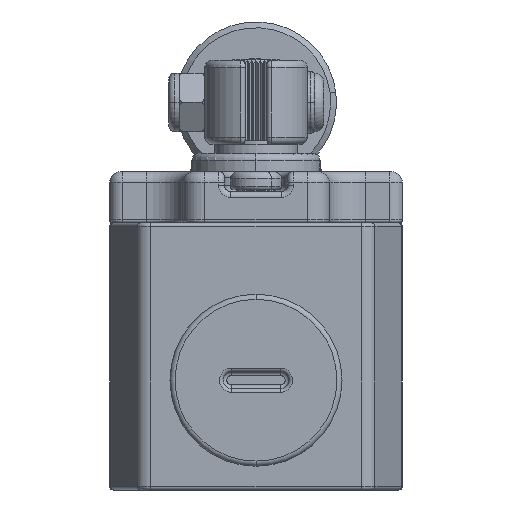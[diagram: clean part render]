
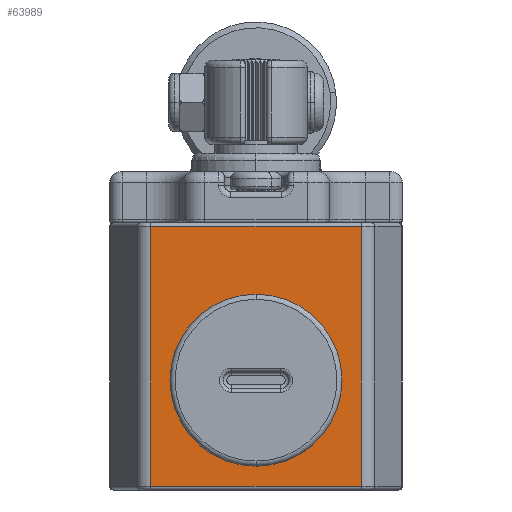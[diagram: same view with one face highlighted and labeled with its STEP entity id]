
A CAD part, front view. The second image highlights one B-rep face of the part: STEP entity #63989.
In plain terms, the highlighted planar face has unit normal (0, -1, 0).
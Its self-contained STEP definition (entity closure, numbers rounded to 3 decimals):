
#1341 = FACE_OUTER_BOUND ( 'NONE', #117278, .T. ) ;
#4713 = DIRECTION ( 'NONE',  ( 0., 0., 1. ) ) ;
#4829 = AXIS2_PLACEMENT_3D ( 'NONE', #84052, #19546, #101266 ) ;
#10828 = DIRECTION ( 'NONE',  ( 0., 0., -1. ) ) ;
#11184 = CARTESIAN_POINT ( 'NONE',  ( 88.342, 122.243, 244.545 ) ) ;
#12561 = FACE_BOUND ( 'NONE', #115080, .T. ) ;
#19546 = DIRECTION ( 'NONE',  ( 0., 1., 0. ) ) ;
#21885 = CARTESIAN_POINT ( 'NONE',  ( 117.144, 122.243, 244.545 ) ) ;
#22241 = VERTEX_POINT ( 'NONE', #11184 ) ;
#22618 = DIRECTION ( 'NONE',  ( 1., 0., 0. ) ) ;
#23898 = EDGE_CURVE ( 'NONE', #60030, #42844, #104258, .T. ) ;
#27044 = AXIS2_PLACEMENT_3D ( 'NONE', #30358, #46957, #10828 ) ;
#27972 = VERTEX_POINT ( 'NONE', #95428 ) ;
#28960 = EDGE_CURVE ( 'NONE', #49708, #60030, #67592, .T. ) ;
#30358 = CARTESIAN_POINT ( 'NONE',  ( 82.743, 122.243, 245.045 ) ) ;
#31297 = CIRCLE ( 'NONE', #4829, 11. ) ;
#31980 = CARTESIAN_POINT ( 'NONE',  ( 117.144, 122.243, 245.045 ) ) ;
#37840 = DIRECTION ( 'NONE',  ( 0., 0., -1. ) ) ;
#38521 = LINE ( 'NONE', #92431, #44535 ) ;
#39359 = CARTESIAN_POINT ( 'NONE',  ( 102.743, 122.243, 234.545 ) ) ;
#39535 = VECTOR ( 'NONE', #4713, 1000. ) ;
#42844 = VERTEX_POINT ( 'NONE', #21885 ) ;
#44192 = EDGE_CURVE ( 'NONE', #42844, #22241, #38521, .T. ) ;
#44228 = ORIENTED_EDGE ( 'NONE', *, *, #44192, .T. ) ;
#44535 = VECTOR ( 'NONE', #110238, 1000. ) ;
#44638 = CARTESIAN_POINT ( 'NONE',  ( 88.342, 122.243, 209.045 ) ) ;
#45345 = CIRCLE ( 'NONE', #62419, 11. ) ;
#46957 = DIRECTION ( 'NONE',  ( 0., 1., 0. ) ) ;
#49708 = VERTEX_POINT ( 'NONE', #44638 ) ;
#52855 = VECTOR ( 'NONE', #37840, 1000. ) ;
#53603 = ORIENTED_EDGE ( 'NONE', *, *, #106431, .T. ) ;
#59307 = CARTESIAN_POINT ( 'NONE',  ( 82.743, 122.243, 209.045 ) ) ;
#60030 = VERTEX_POINT ( 'NONE', #60542 ) ;
#60542 = CARTESIAN_POINT ( 'NONE',  ( 117.144, 122.243, 209.045 ) ) ;
#62419 = AXIS2_PLACEMENT_3D ( 'NONE', #103405, #93914, #112874 ) ;
#63989 = ADVANCED_FACE ( 'NONE', ( #12561, #1341 ), #84222, .F. ) ;
#66717 = VECTOR ( 'NONE', #22618, 1000. ) ;
#67592 = LINE ( 'NONE', #59307, #66717 ) ;
#71961 = ORIENTED_EDGE ( 'NONE', *, *, #23898, .T. ) ;
#79778 = EDGE_CURVE ( 'NONE', #22241, #49708, #108950, .T. ) ;
#80237 = EDGE_CURVE ( 'NONE', #27972, #113440, #45345, .T. ) ;
#84052 = CARTESIAN_POINT ( 'NONE',  ( 102.743, 122.243, 223.545 ) ) ;
#84222 = PLANE ( 'NONE',  #27044 ) ;
#91167 = CARTESIAN_POINT ( 'NONE',  ( 88.342, 122.243, 245.045 ) ) ;
#92431 = CARTESIAN_POINT ( 'NONE',  ( 88.342, 122.243, 244.545 ) ) ;
#93914 = DIRECTION ( 'NONE',  ( 0., 1., 0. ) ) ;
#94136 = ORIENTED_EDGE ( 'NONE', *, *, #28960, .T. ) ;
#95428 = CARTESIAN_POINT ( 'NONE',  ( 102.743, 122.243, 212.545 ) ) ;
#101266 = DIRECTION ( 'NONE',  ( 0., 0., 1. ) ) ;
#101596 = ORIENTED_EDGE ( 'NONE', *, *, #79778, .T. ) ;
#103405 = CARTESIAN_POINT ( 'NONE',  ( 102.743, 122.243, 223.545 ) ) ;
#104258 = LINE ( 'NONE', #31980, #39535 ) ;
#106431 = EDGE_CURVE ( 'NONE', #113440, #27972, #31297, .T. ) ;
#108581 = ORIENTED_EDGE ( 'NONE', *, *, #80237, .T. ) ;
#108950 = LINE ( 'NONE', #91167, #52855 ) ;
#110238 = DIRECTION ( 'NONE',  ( -1., 0., 0. ) ) ;
#112874 = DIRECTION ( 'NONE',  ( 0., 0., 1. ) ) ;
#113440 = VERTEX_POINT ( 'NONE', #39359 ) ;
#115080 = EDGE_LOOP ( 'NONE', ( #108581, #53603 ) ) ;
#117278 = EDGE_LOOP ( 'NONE', ( #101596, #94136, #71961, #44228 ) ) ;
